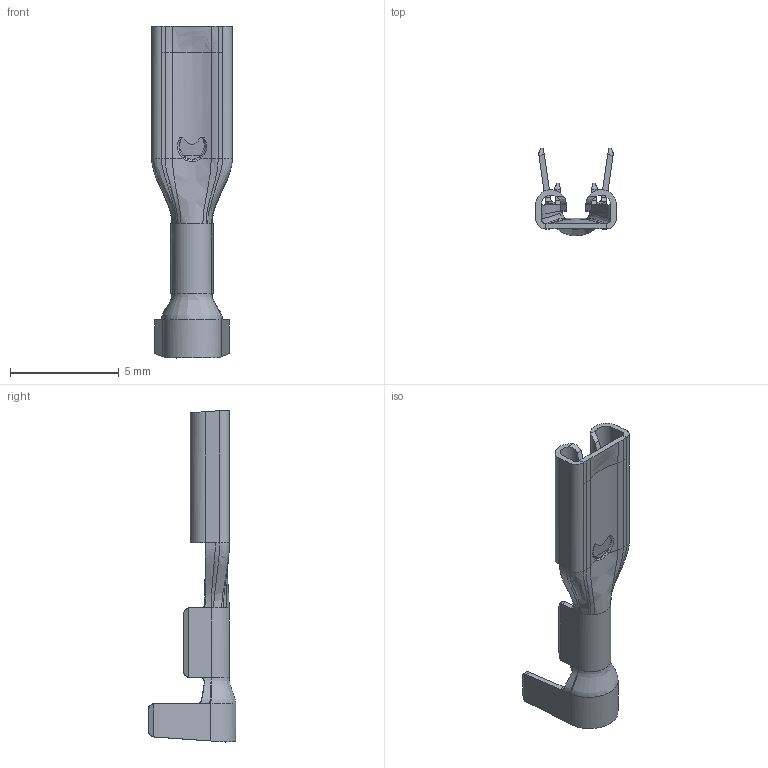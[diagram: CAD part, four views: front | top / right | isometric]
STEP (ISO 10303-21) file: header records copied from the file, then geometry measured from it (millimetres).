
FILE_DESCRIPTION((''),'2;1');
FILE_NAME('TP11015K-','2024-05-25T09:26:56',('JSB-3566'),(''),'CREO PARAMETRIC BY PTC INC, 2018050','CREO PARAMETRIC BY PTC INC, 2018050','');
FILE_SCHEMA(('CONFIG_CONTROL_DESIGN','SHAPE_APPEARANCE_LAYERS_GROUPS'));
Length unit declared in the file: millimetre
Products named in the file (1): TP11015K-
Bounding box: 3.7 x 4.04 x 15.27 mm (x, y, z)
Volume: 25.5 mm3; surface area: 227.5 mm2
Topology: 1 solids, 2 shells, 185 faces, 475 edges, 293 vertices
Faces by surface type: plane 76, bspline 63, cylinder 40, torus 4, extrusion 2
Entity records: 12808 total; most frequent: CARTESIAN_POINT 7336, ORIENTED_EDGE 938, DIRECTION 633, PRESENTATION_STYLE_ASSIGNMENT 477, STYLED_ITEM 477, CURVE_STYLE 475, EDGE_CURVE 475, VERTEX_POINT 293
